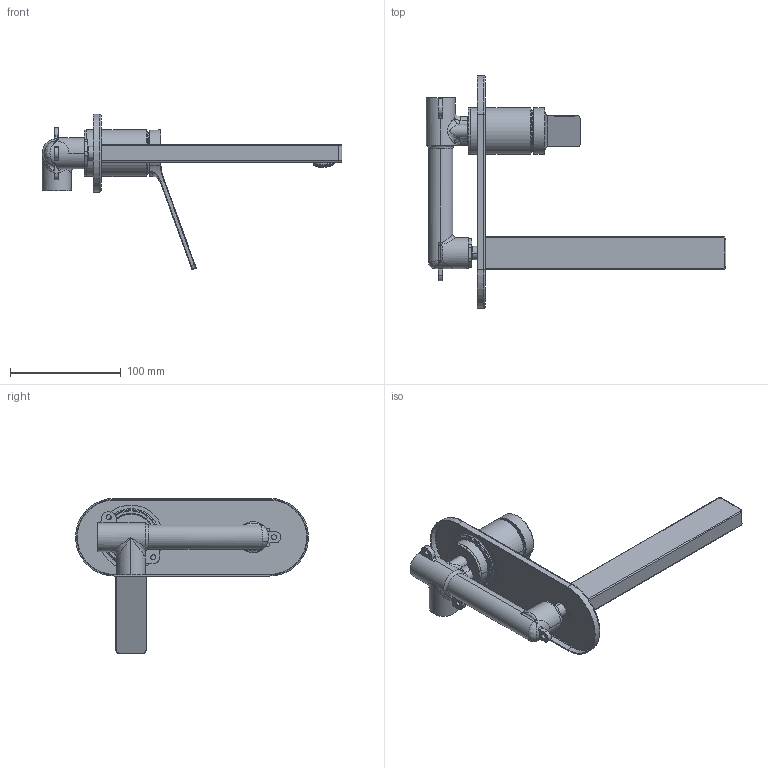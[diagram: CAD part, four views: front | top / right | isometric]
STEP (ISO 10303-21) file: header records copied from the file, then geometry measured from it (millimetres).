
FILE_DESCRIPTION((''),'2;1');
FILE_NAME('VSA148330_ASM','2023-08-28T',('fth54'),(''),'CREO PARAMETRIC BY PTC INC, 2015480','CREO PARAMETRIC BY PTC INC, 2015480','');
FILE_SCHEMA(('CONFIG_CONTROL_DESIGN'));
Products named in the file (27): 80T14431_AF0; J10350SD01_AF0; 81T148331_AF0; 8YG35000_AF0; 8ZG148331_AF0; 8J38X15_AF0; 80N168073_AF0; 80P35VSA2_AF0; 8EM5X5_AF0; 8JT148330_AF0; 8J22X2A_AF0; 8J125X2A_AF0; 8J125X2A_AF1; 80W148330_AF1; 80W14418_AF0; 8MB148330_AF2_ASM; 8J487X35A_AF0; 80G148330_AF0; 8EM5X4; 8EM4X10; M24421NP-R06_AF0; M24421NP-R07_AF0; M24421NP-R08_AF0; M24421NP-R09_AF0; 80M24123BNP0_AF3_ASM; 8SJ10351; VSA148330_ASM
Assembly tree (28 placements, depth 3):
  VSA148330_ASM
    80T14431_AF0
    J10350SD01_AF0
    81T148331_AF0
    8YG35000_AF0
    8ZG148331_AF0
    8J38X15_AF0
    80N168073_AF0
    80P35VSA2_AF0
    8EM5X5_AF0
    8JT148330_AF0
    8J22X2A_AF0
    8J125X2A_AF0
    8J125X2A_AF1
    8MB148330_AF2_ASM
      80W148330_AF1
      80W14418_AF0
    8J487X35A_AF0
    80G148330_AF0
    8EM5X4  x2
    8EM4X10  x2
    80M24123BNP0_AF3_ASM
      M24421NP-R06_AF0
      M24421NP-R07_AF0
      M24421NP-R08_AF0
      M24421NP-R09_AF0
    8SJ10351
Bounding box: 270 x 210 x 139.91 mm (x, y, z)
Volume: 233374.9 mm3; surface area: 161947 mm2
Topology: 31 solids, 31 shells, 3383 faces, 9961 edges, 6427 vertices
Faces by surface type: cylinder 1602, plane 1407, torus 143, cone 122, bspline 90, extrusion 10, sphere 9
Entity records: 143343 total; most frequent: CARTESIAN_POINT 54432, ORIENTED_EDGE 19746, DIRECTION 16229, EDGE_CURVE 9873, VERTEX_POINT 6381, AXIS2_PLACEMENT_3D 5789, VECTOR 4651, LINE 4641
